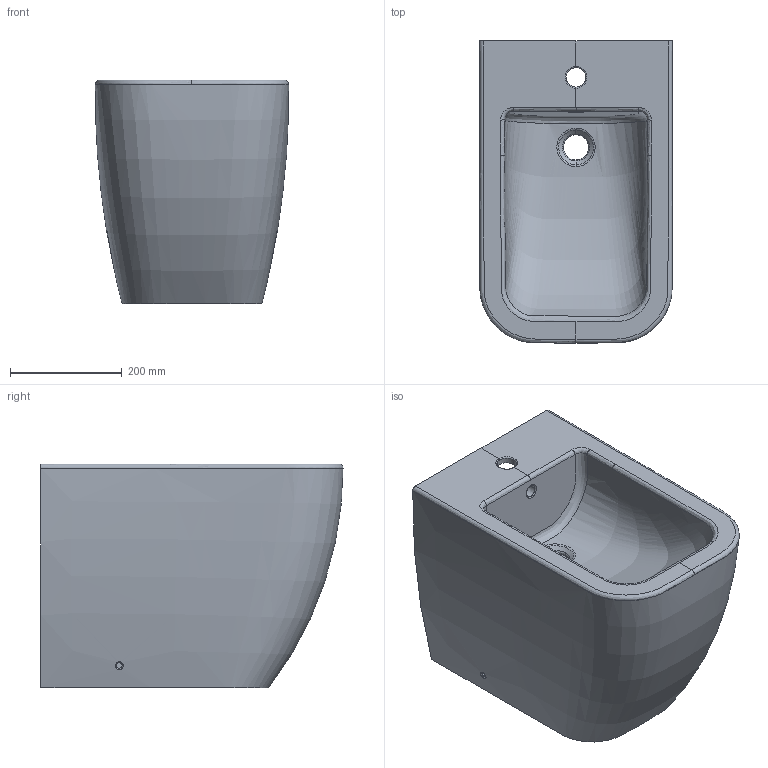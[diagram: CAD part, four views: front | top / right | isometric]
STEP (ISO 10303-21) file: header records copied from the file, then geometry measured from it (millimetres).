
FILE_DESCRIPTION(/* description */ (''),/* implementation_level */ '2;1');
FILE_NAME(/* name */ 'B10100',/* time_stamp */ '2021-09-18T15:20:44+08:00',/* author */ (''),/* organization */ (''),/* preprocessor_version */ 'ST-DEVELOPER v16.5',/* originating_system */ '',/* authorisation */ '');
FILE_SCHEMA (('AUTOMOTIVE_DESIGN'));
Length unit declared in the file: millimetre
Products named in the file (1): Document
Bounding box: 345.16 x 539.98 x 400 mm (x, y, z)
Surface area: 775090.3 mm2 (no closed solid volume)
Topology: 0 solids, 2 shells, 41 faces, 114 edges, 76 vertices
Faces by surface type: bspline 37, plane 4
Entity records: 13274 total; most frequent: CARTESIAN_POINT 12638, ORIENTED_EDGE 212, EDGE_CURVE 114, VERTEX_POINT 76, B_SPLINE_CURVE_WITH_KNOTS 51, EDGE_LOOP 45, ADVANCED_FACE 41, FACE_OUTER_BOUND 41
